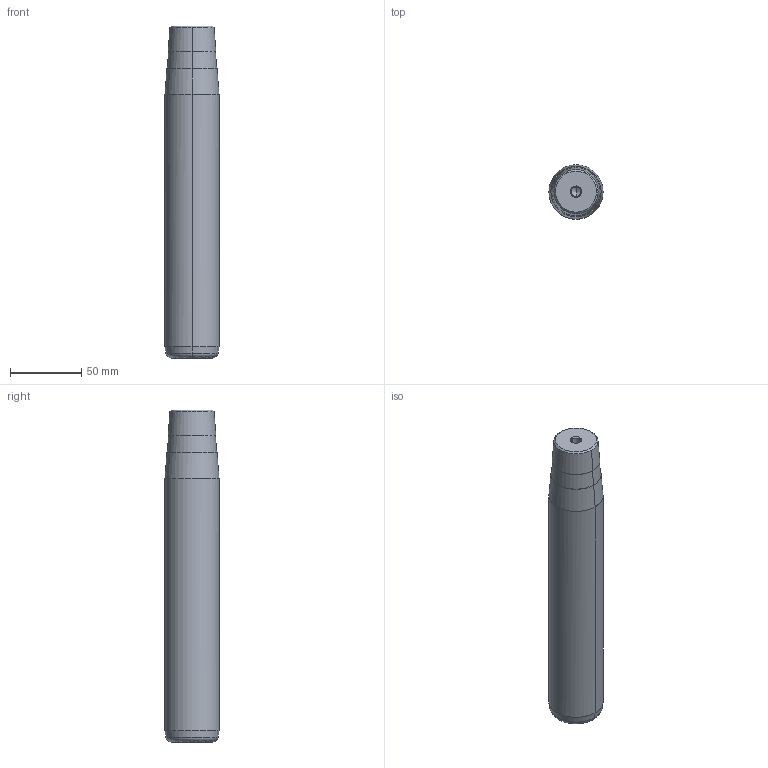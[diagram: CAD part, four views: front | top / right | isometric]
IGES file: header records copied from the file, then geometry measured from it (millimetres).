
Start section: START RECORD GO HERE.
Global section: file name: 722-38x200x233.igs; native system: DASSAULT SYSTEMES CATIA V5 R20 - www.3ds.com; preprocessor: CATIA Version 5 Release 20 ; author: Utente; organization: NB04-ASUS; date: 20210108.170326; units: millimetre
Bounding box: 38 x 38 x 233 mm (x, y, z)
Surface area: 29943.1 mm2 (no closed solid volume)
Topology: 0 solids, 0 shells, 32 faces, 192 edges, 188 vertices
Faces by surface type: revolution 30, plane 2
